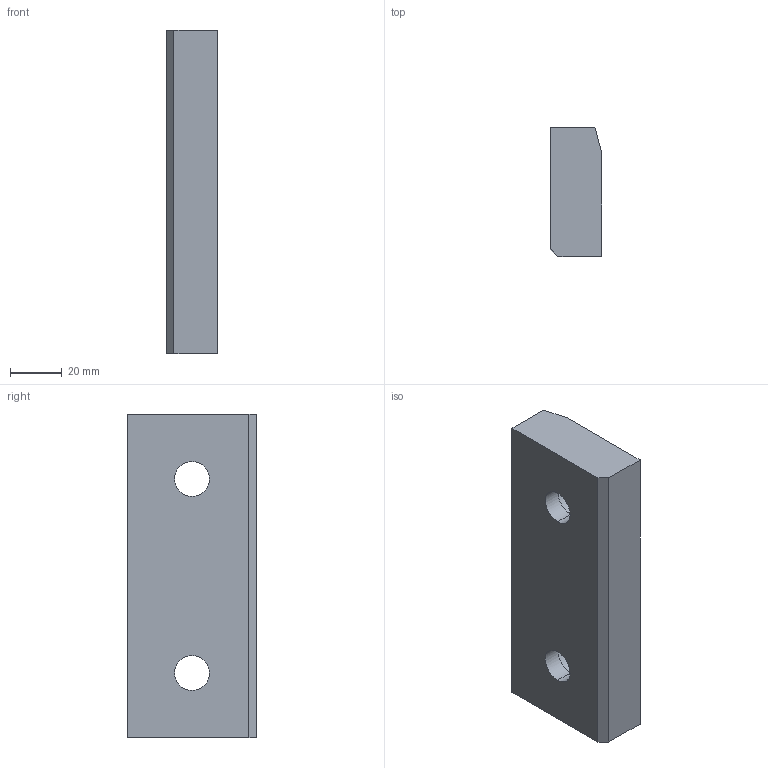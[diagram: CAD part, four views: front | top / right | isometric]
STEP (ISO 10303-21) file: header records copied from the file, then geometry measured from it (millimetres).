
FILE_DESCRIPTION(('CATIA V5 STEP Exchange'),'2;1');
FILE_NAME('C:\Users\borellobunino\Desktop\3D X SITO CF\A915\GSB_OILLESS_G22501125050\STEP-2.03\A915-125X50.stp','2019-07-14T13:43:18+00:00',('none'),('none'),'CATIA Version 5 Release 20 GA (IN-10)','CATIA V5 STEP AP203','none');
FILE_SCHEMA(('CONFIG_CONTROL_DESIGN'));
Length unit declared in the file: millimetre
Products named in the file (1): A915-125X50
Bounding box: 20 x 50 x 125 mm (x, y, z)
Volume: 112329.4 mm3; surface area: 20453.7 mm2
Topology: 1 solids, 1 shells, 23 faces, 73 edges, 54 vertices
Faces by surface type: plane 10, cylinder 9, torus 4
Entity records: 1057 total; most frequent: CARTESIAN_POINT 375, ORIENTED_EDGE 146, DIRECTION 103, EDGE_CURVE 73, AXIS2_PLACEMENT_3D 54, VERTEX_POINT 54, CIRCLE 30, EDGE_LOOP 29
